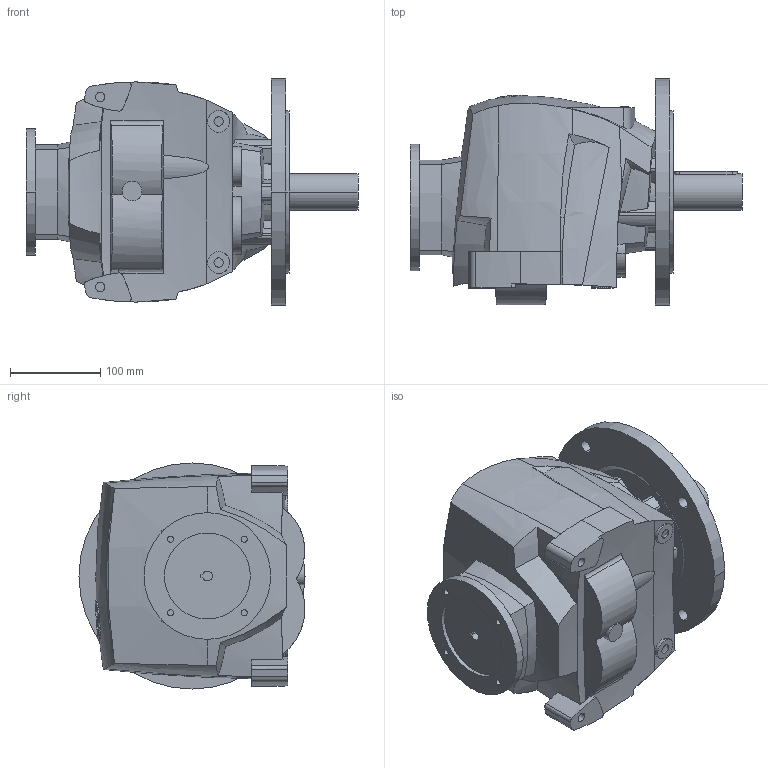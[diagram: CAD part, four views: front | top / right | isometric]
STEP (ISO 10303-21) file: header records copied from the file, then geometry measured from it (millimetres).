
FILE_DESCRIPTION((''),'2;1');
FILE_NAME('R35_250_PAM63_D2','2013-11-26T',('Luca'),(''),'PRO/ENGINEER BY PARAMETRIC TECHNOLOGY CORPORATION, 2008230','PRO/ENGINEER BY PARAMETRIC TECHNOLOGY CORPORATION, 2008230','');
FILE_SCHEMA(('CONFIG_CONTROL_DESIGN'));
Length unit declared in the file: millimetre
Products named in the file (1): R35_250_PAM63_D2
Bounding box: 367 x 250 x 250 mm (x, y, z)
Volume: 9324775.1 mm3; surface area: 401192.8 mm2
Topology: 7 solids, 9 shells, 417 faces, 1110 edges, 745 vertices
Faces by surface type: cylinder 141, plane 103, extrusion 92, bspline 58, cone 14, torus 9
Entity records: 20974 total; most frequent: CARTESIAN_POINT 11565, ORIENTED_EDGE 2214, DIRECTION 1418, EDGE_CURVE 1107, VERTEX_POINT 745, B_SPLINE_CURVE_WITH_KNOTS 620, AXIS2_PLACEMENT_3D 480, EDGE_LOOP 460
